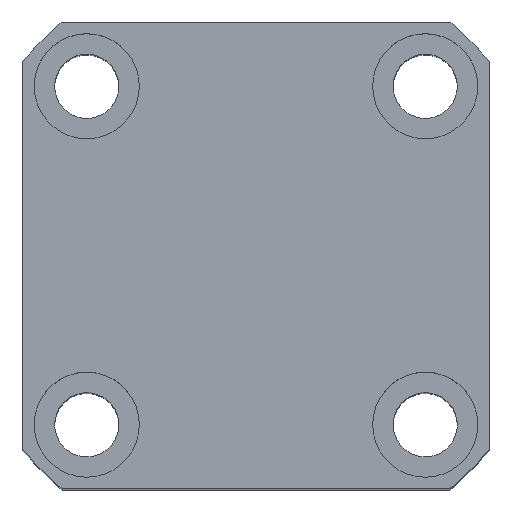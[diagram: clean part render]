
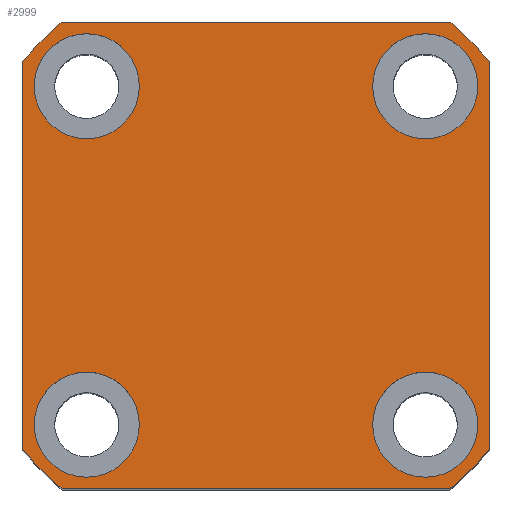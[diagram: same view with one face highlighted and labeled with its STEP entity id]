
A CAD part, top view. The second image highlights one B-rep face of the part: STEP entity #2999.
In plain terms, the highlighted planar face has unit normal (0, 0, 1).
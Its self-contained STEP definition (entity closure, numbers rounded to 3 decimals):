
#2999=ADVANCED_FACE('',(#3672,#3673,#3674,#3675,#3676),#3372,.T.);
#3372=PLANE('',#10014);
#3672=FACE_BOUND('',#3886,.T.);
#3673=FACE_BOUND('',#3887,.T.);
#3674=FACE_BOUND('',#3888,.T.);
#3675=FACE_BOUND('',#3889,.T.);
#3676=FACE_BOUND('',#3890,.T.);
#3886=EDGE_LOOP('',(#5882));
#3887=EDGE_LOOP('',(#5883));
#3888=EDGE_LOOP('',(#5884));
#3889=EDGE_LOOP('',(#5885));
#3890=EDGE_LOOP('',(#5886,#5887,#5888,#5889,#5890,#5891,#5892,#5893));
#4350=LINE('',#11930,#5015);
#4357=LINE('',#12587,#5022);
#4361=LINE('',#12599,#5026);
#4364=LINE('',#12608,#5029);
#5015=VECTOR('',#10355,1.);
#5022=VECTOR('',#10510,1.);
#5026=VECTOR('',#10522,1.);
#5029=VECTOR('',#10533,1.);
#5882=ORIENTED_EDGE('',*,*,#8807,.F.);
#5883=ORIENTED_EDGE('',*,*,#8809,.F.);
#5884=ORIENTED_EDGE('',*,*,#8811,.F.);
#5885=ORIENTED_EDGE('',*,*,#8813,.F.);
#5886=ORIENTED_EDGE('',*,*,#8832,.T.);
#5887=ORIENTED_EDGE('',*,*,#8745,.T.);
#5888=ORIENTED_EDGE('',*,*,#8836,.T.);
#5889=ORIENTED_EDGE('',*,*,#8839,.T.);
#5890=ORIENTED_EDGE('',*,*,#8842,.T.);
#5891=ORIENTED_EDGE('',*,*,#8845,.T.);
#5892=ORIENTED_EDGE('',*,*,#8848,.T.);
#5893=ORIENTED_EDGE('',*,*,#8850,.T.);
#7944=VERTEX_POINT('',#11929);
#7945=VERTEX_POINT('',#11931);
#8005=VERTEX_POINT('',#12512);
#8007=VERTEX_POINT('',#12517);
#8009=VERTEX_POINT('',#12522);
#8011=VERTEX_POINT('',#12527);
#8030=VERTEX_POINT('',#12574);
#8032=VERTEX_POINT('',#12580);
#8034=VERTEX_POINT('',#12586);
#8036=VERTEX_POINT('',#12592);
#8038=VERTEX_POINT('',#12598);
#8040=VERTEX_POINT('',#12604);
#8745=EDGE_CURVE('',#7945,#7944,#4350,.T.);
#8807=EDGE_CURVE('',#8005,#8005,#9850,.T.);
#8809=EDGE_CURVE('',#8007,#8007,#9852,.T.);
#8811=EDGE_CURVE('',#8009,#8009,#9854,.T.);
#8813=EDGE_CURVE('',#8011,#8011,#9856,.T.);
#8832=EDGE_CURVE('',#8030,#7945,#9875,.T.);
#8836=EDGE_CURVE('',#7944,#8032,#9877,.T.);
#8839=EDGE_CURVE('',#8032,#8034,#4357,.T.);
#8842=EDGE_CURVE('',#8034,#8036,#9879,.T.);
#8845=EDGE_CURVE('',#8036,#8038,#4361,.T.);
#8848=EDGE_CURVE('',#8038,#8040,#9881,.T.);
#8850=EDGE_CURVE('',#8040,#8030,#4364,.T.);
#9850=CIRCLE('',#9963,9.);
#9852=CIRCLE('',#9966,9.);
#9854=CIRCLE('',#9969,9.);
#9856=CIRCLE('',#9972,9.);
#9875=CIRCLE('',#10000,52.);
#9877=CIRCLE('',#10003,52.);
#9879=CIRCLE('',#10007,52.);
#9881=CIRCLE('',#10011,52.);
#9963=AXIS2_PLACEMENT_3D('',#12511,#10422,#10423);
#9966=AXIS2_PLACEMENT_3D('',#12516,#10428,#10429);
#9969=AXIS2_PLACEMENT_3D('',#12521,#10434,#10435);
#9972=AXIS2_PLACEMENT_3D('',#12526,#10440,#10441);
#10000=AXIS2_PLACEMENT_3D('',#12573,#10496,#10497);
#10003=AXIS2_PLACEMENT_3D('',#12581,#10504,#10505);
#10007=AXIS2_PLACEMENT_3D('',#12593,#10516,#10517);
#10011=AXIS2_PLACEMENT_3D('',#12605,#10528,#10529);
#10014=AXIS2_PLACEMENT_3D('',#12610,#10536,#10537);
#10355=DIRECTION('',(0.,-1.,0.));
#10422=DIRECTION('',(0.,0.,1.));
#10423=DIRECTION('',(1.,0.,0.));
#10428=DIRECTION('',(0.,0.,1.));
#10429=DIRECTION('',(1.,0.,0.));
#10434=DIRECTION('',(0.,0.,1.));
#10435=DIRECTION('',(1.,0.,0.));
#10440=DIRECTION('',(0.,0.,1.));
#10441=DIRECTION('',(1.,0.,0.));
#10496=DIRECTION('',(0.,0.,1.));
#10497=DIRECTION('',(1.,0.,0.));
#10504=DIRECTION('',(0.,0.,1.));
#10505=DIRECTION('',(1.,0.,0.));
#10510=DIRECTION('',(1.,0.,0.));
#10516=DIRECTION('',(0.,0.,1.));
#10517=DIRECTION('',(1.,0.,0.));
#10522=DIRECTION('',(0.,1.,0.));
#10528=DIRECTION('',(0.,0.,1.));
#10529=DIRECTION('',(1.,0.,0.));
#10533=DIRECTION('',(-1.,0.,0.));
#10536=DIRECTION('',(0.,0.,1.));
#10537=DIRECTION('',(-1.,0.,0.));
#11929=CARTESIAN_POINT('',(-40.,-33.226,55.));
#11930=CARTESIAN_POINT('',(-40.,33.226,55.));
#11931=CARTESIAN_POINT('',(-40.,33.226,55.));
#12511=CARTESIAN_POINT('',(29.,-29.,55.));
#12512=CARTESIAN_POINT('',(38.,-29.,55.));
#12516=CARTESIAN_POINT('',(-29.,-29.,55.));
#12517=CARTESIAN_POINT('',(-20.,-29.,55.));
#12521=CARTESIAN_POINT('',(-29.,29.,55.));
#12522=CARTESIAN_POINT('',(-20.,29.,55.));
#12526=CARTESIAN_POINT('',(29.,29.,55.));
#12527=CARTESIAN_POINT('',(38.,29.,55.));
#12573=CARTESIAN_POINT('',(0.,0.,55.));
#12574=CARTESIAN_POINT('',(-33.226,40.,55.));
#12580=CARTESIAN_POINT('',(-33.226,-40.,55.));
#12581=CARTESIAN_POINT('',(0.,0.,55.));
#12586=CARTESIAN_POINT('',(33.226,-40.,55.));
#12587=CARTESIAN_POINT('',(-33.226,-40.,55.));
#12592=CARTESIAN_POINT('',(40.,-33.226,55.));
#12593=CARTESIAN_POINT('',(0.,0.,55.));
#12598=CARTESIAN_POINT('',(40.,33.226,55.));
#12599=CARTESIAN_POINT('',(40.,33.226,55.));
#12604=CARTESIAN_POINT('',(33.226,40.,55.));
#12605=CARTESIAN_POINT('',(0.,0.,55.));
#12608=CARTESIAN_POINT('',(-33.226,40.,55.));
#12610=CARTESIAN_POINT('',(0.,0.,55.));
